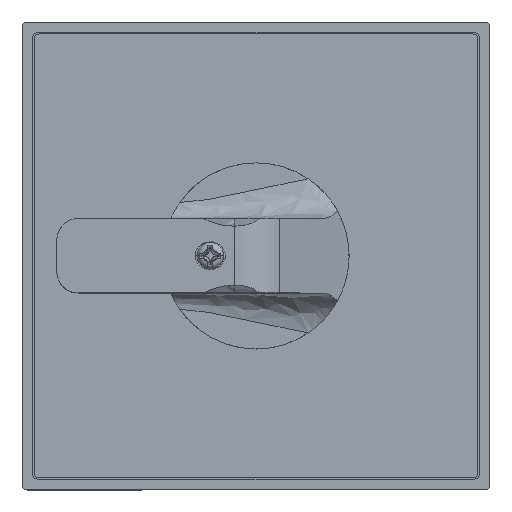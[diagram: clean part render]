
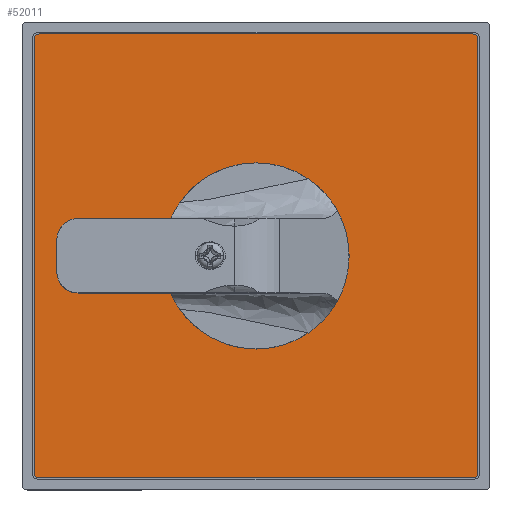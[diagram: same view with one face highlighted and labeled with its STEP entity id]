
A CAD part, top view. The second image highlights one B-rep face of the part: STEP entity #52011.
In plain terms, the highlighted planar face has unit normal (0, 0, 1).
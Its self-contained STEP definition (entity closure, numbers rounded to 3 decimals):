
#2539 = ORIENTED_EDGE ( 'NONE', *, *, #88271, .F. ) ;
#4989 = EDGE_CURVE ( 'NONE', #40072, #46932, #59862, .T. ) ;
#6911 = EDGE_CURVE ( 'NONE', #70996, #14744, #19020, .T. ) ;
#7732 = CARTESIAN_POINT ( 'NONE',  ( 40.75, 40.75, 64.125 ) ) ;
#10760 = DIRECTION ( 'NONE',  ( 1., 0., 0. ) ) ;
#14744 = VERTEX_POINT ( 'NONE', #147883 ) ;
#17438 = CARTESIAN_POINT ( 'NONE',  ( -12.5, 0., 64.125 ) ) ;
#18320 = EDGE_LOOP ( 'NONE', ( #73635, #2539 ) ) ;
#19020 = CIRCLE ( 'NONE', #86722, 1. ) ;
#19379 = DIRECTION ( 'NONE',  ( 1., 0., 0. ) ) ;
#20187 = PLANE ( 'NONE',  #76506 ) ;
#20211 = LINE ( 'NONE', #95303, #59503 ) ;
#20688 = VECTOR ( 'NONE', #136662, 1000. ) ;
#20724 = CIRCLE ( 'NONE', #82233, 1. ) ;
#26679 = DIRECTION ( 'NONE',  ( 0., 1., 0. ) ) ;
#28613 = CARTESIAN_POINT ( 'NONE',  ( 0., 0., 64.125 ) ) ;
#29533 = LINE ( 'NONE', #101638, #20688 ) ;
#31587 = EDGE_CURVE ( 'NONE', #123500, #67805, #105794, .T. ) ;
#32589 = CARTESIAN_POINT ( 'NONE',  ( 40.75, 41.75, 64.125 ) ) ;
#33382 = CARTESIAN_POINT ( 'NONE',  ( -41.75, 40.75, 64.125 ) ) ;
#35323 = EDGE_CURVE ( 'NONE', #67805, #70996, #62984, .T. ) ;
#40072 = VERTEX_POINT ( 'NONE', #145757 ) ;
#40646 = DIRECTION ( 'NONE',  ( 1., 0., 0. ) ) ;
#42663 = VERTEX_POINT ( 'NONE', #33382 ) ;
#46159 = DIRECTION ( 'NONE',  ( 0., 0., 1. ) ) ;
#46932 = VERTEX_POINT ( 'NONE', #32589 ) ;
#52011 = ADVANCED_FACE ( 'NONE', ( #130304, #65744 ), #20187, .T. ) ;
#53596 = ORIENTED_EDGE ( 'NONE', *, *, #141084, .T. ) ;
#55114 = DIRECTION ( 'NONE',  ( 0., 0., 1. ) ) ;
#59503 = VECTOR ( 'NONE', #26679, 1000. ) ;
#59862 = CIRCLE ( 'NONE', #145765, 1. ) ;
#62497 = EDGE_LOOP ( 'NONE', ( #134815, #89075, #129662, #90932, #86962, #108972, #86333, #53596 ) ) ;
#62984 = LINE ( 'NONE', #69224, #100676 ) ;
#63264 = DIRECTION ( 'NONE',  ( 0., 0., 1. ) ) ;
#64354 = CARTESIAN_POINT ( 'NONE',  ( 0., 0., 64.125 ) ) ;
#65744 = FACE_BOUND ( 'NONE', #18320, .T. ) ;
#66368 = AXIS2_PLACEMENT_3D ( 'NONE', #109825, #131334, #121307 ) ;
#67174 = VERTEX_POINT ( 'NONE', #111588 ) ;
#67805 = VERTEX_POINT ( 'NONE', #85357 ) ;
#69224 = CARTESIAN_POINT ( 'NONE',  ( -40.75, -41.75, 64.125 ) ) ;
#70121 = CARTESIAN_POINT ( 'NONE',  ( -40.75, 41.75, 64.125 ) ) ;
#70788 = DIRECTION ( 'NONE',  ( -1., 0., 0. ) ) ;
#70996 = VERTEX_POINT ( 'NONE', #107731 ) ;
#71156 = CIRCLE ( 'NONE', #96709, 12.5 ) ;
#71278 = CARTESIAN_POINT ( 'NONE',  ( -40.75, 41.75, 64.125 ) ) ;
#71797 = DIRECTION ( 'NONE',  ( 0., 0., 1. ) ) ;
#73635 = ORIENTED_EDGE ( 'NONE', *, *, #103618, .F. ) ;
#75273 = DIRECTION ( 'NONE',  ( 1., 0., 0. ) ) ;
#76506 = AXIS2_PLACEMENT_3D ( 'NONE', #111806, #55114, #79651 ) ;
#78209 = CARTESIAN_POINT ( 'NONE',  ( 40.75, -40.75, 64.125 ) ) ;
#79225 = EDGE_CURVE ( 'NONE', #46932, #134016, #109029, .T. ) ;
#79651 = DIRECTION ( 'NONE',  ( 1., 0., 0. ) ) ;
#81829 = EDGE_CURVE ( 'NONE', #42663, #123500, #29533, .T. ) ;
#82233 = AXIS2_PLACEMENT_3D ( 'NONE', #141405, #71797, #95369 ) ;
#83800 = CIRCLE ( 'NONE', #132586, 12.5 ) ;
#85357 = CARTESIAN_POINT ( 'NONE',  ( -40.75, -41.75, 64.125 ) ) ;
#86333 = ORIENTED_EDGE ( 'NONE', *, *, #6911, .T. ) ;
#86722 = AXIS2_PLACEMENT_3D ( 'NONE', #78209, #46159, #137832 ) ;
#86962 = ORIENTED_EDGE ( 'NONE', *, *, #31587, .T. ) ;
#88271 = EDGE_CURVE ( 'NONE', #67174, #138081, #83800, .T. ) ;
#89075 = ORIENTED_EDGE ( 'NONE', *, *, #79225, .T. ) ;
#90932 = ORIENTED_EDGE ( 'NONE', *, *, #81829, .T. ) ;
#95303 = CARTESIAN_POINT ( 'NONE',  ( 41.75, 40.75, 64.125 ) ) ;
#95369 = DIRECTION ( 'NONE',  ( -1., 0., 0. ) ) ;
#96709 = AXIS2_PLACEMENT_3D ( 'NONE', #64354, #133486, #19379 ) ;
#100676 = VECTOR ( 'NONE', #10760, 1000. ) ;
#101638 = CARTESIAN_POINT ( 'NONE',  ( -41.75, 40.75, 64.125 ) ) ;
#103618 = EDGE_CURVE ( 'NONE', #138081, #67174, #71156, .T. ) ;
#105794 = CIRCLE ( 'NONE', #66368, 1. ) ;
#107731 = CARTESIAN_POINT ( 'NONE',  ( 40.75, -41.75, 64.125 ) ) ;
#108972 = ORIENTED_EDGE ( 'NONE', *, *, #35323, .T. ) ;
#109029 = LINE ( 'NONE', #71278, #114344 ) ;
#109825 = CARTESIAN_POINT ( 'NONE',  ( -40.75, -40.75, 64.125 ) ) ;
#111588 = CARTESIAN_POINT ( 'NONE',  ( 12.5, 0., 64.125 ) ) ;
#111806 = CARTESIAN_POINT ( 'NONE',  ( 40.75, 40.75, 64.125 ) ) ;
#114344 = VECTOR ( 'NONE', #70788, 1000. ) ;
#120327 = DIRECTION ( 'NONE',  ( 0., 0., 1. ) ) ;
#121307 = DIRECTION ( 'NONE',  ( -1., 0., 0. ) ) ;
#123500 = VERTEX_POINT ( 'NONE', #125705 ) ;
#125705 = CARTESIAN_POINT ( 'NONE',  ( -41.75, -40.75, 64.125 ) ) ;
#129662 = ORIENTED_EDGE ( 'NONE', *, *, #135333, .T. ) ;
#130304 = FACE_OUTER_BOUND ( 'NONE', #62497, .T. ) ;
#131334 = DIRECTION ( 'NONE',  ( 0., 0., 1. ) ) ;
#132586 = AXIS2_PLACEMENT_3D ( 'NONE', #28613, #120327, #40646 ) ;
#133486 = DIRECTION ( 'NONE',  ( 0., 0., 1. ) ) ;
#134016 = VERTEX_POINT ( 'NONE', #70121 ) ;
#134815 = ORIENTED_EDGE ( 'NONE', *, *, #4989, .T. ) ;
#135333 = EDGE_CURVE ( 'NONE', #134016, #42663, #20724, .T. ) ;
#136662 = DIRECTION ( 'NONE',  ( 0., -1., 0. ) ) ;
#137832 = DIRECTION ( 'NONE',  ( -1., 0., 0. ) ) ;
#138081 = VERTEX_POINT ( 'NONE', #17438 ) ;
#141084 = EDGE_CURVE ( 'NONE', #14744, #40072, #20211, .T. ) ;
#141405 = CARTESIAN_POINT ( 'NONE',  ( -40.75, 40.75, 64.125 ) ) ;
#145757 = CARTESIAN_POINT ( 'NONE',  ( 41.75, 40.75, 64.125 ) ) ;
#145765 = AXIS2_PLACEMENT_3D ( 'NONE', #7732, #63264, #75273 ) ;
#147883 = CARTESIAN_POINT ( 'NONE',  ( 41.75, -40.75, 64.125 ) ) ;
